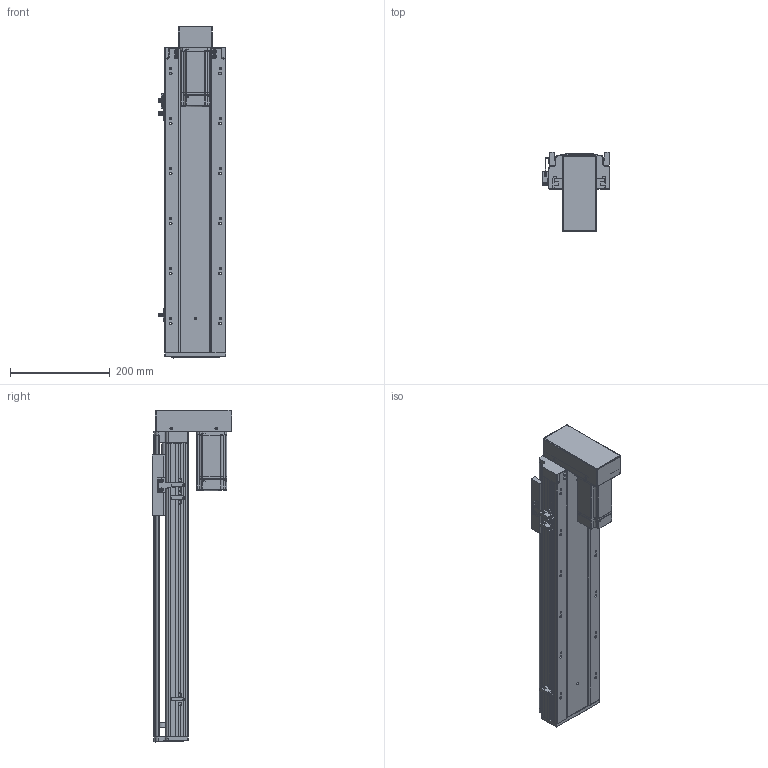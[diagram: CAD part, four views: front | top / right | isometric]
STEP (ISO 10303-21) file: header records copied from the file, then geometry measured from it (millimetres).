
FILE_DESCRIPTION (( 'STEP AP203' ), '1' );
FILE_NAME ('RY120-L2020-300-BK.SLDASM_400.step', '2021-03-12T06:57:24', ( '盈信电脑' ), ( '东莞市道滘镇水果街19号' ), 'SwSTEP 2.0', 'SolidWorks 2012', '' );
FILE_SCHEMA (( 'CONFIG_CONTROL_DESIGN' ));
Products named in the file (15): RY120-L2020-300-BK.SLDASM_400; RY120下折折电机安装板; RY120-400W萇儂傷-BK; RY120狟殏萇儂欶; 15; RY120转拆电端丝杆支撑座(20丝杆，7002轴承); 侂狟400W侜督萇儂; RY120外置感应片(140共用）; 滅袉蝶18-10; 覜茼ん672; 滅袉蝶18-24; RY120綴裔啣; RY120-300-BK蛌殏倰第菁釱_400; RY120臏賑輸(20蹟譫); RY120-300-BK蛌殏倰第奻裔啣_400
Assembly tree (17 placements, depth 4):
  RY120-L2020-300-BK.SLDASM_400
    RY120-300-BK蛌殏倰第菁釱_400
    RY120-300-BK蛌殏倰第奻裔啣_400
    RY120臏賑輸(20蹟譫)
    RY120綴裔啣
    覜茼ん672  x3
    滅袉蝶18-10
    滅袉蝶18-24  x2
    RY120外置感应片(140共用）
    RY120转拆电端丝杆支撑座(20丝杆，7002轴承)
    RY120-400W萇儂傷-BK
      侂狟400W侜督萇儂
        15
      RY120狟殏萇儂欶
      RY120下折折电机安装板
Bounding box: 135.7 x 159.5 x 664 mm (x, y, z)
Volume: 2192999.7 mm3; surface area: 776539.7 mm2
Topology: 16 solids, 16 shells, 2350 faces, 6443 edges, 4134 vertices
Faces by surface type: plane 1206, cylinder 846, cone 193, bspline 105
Entity records: 77533 total; most frequent: CARTESIAN_POINT 21629, ORIENTED_EDGE 11630, DIRECTION 10759, EDGE_CURVE 5815, VERTEX_POINT 3802, LINE 3661, VECTOR 3661, AXIS2_PLACEMENT_3D 3549
